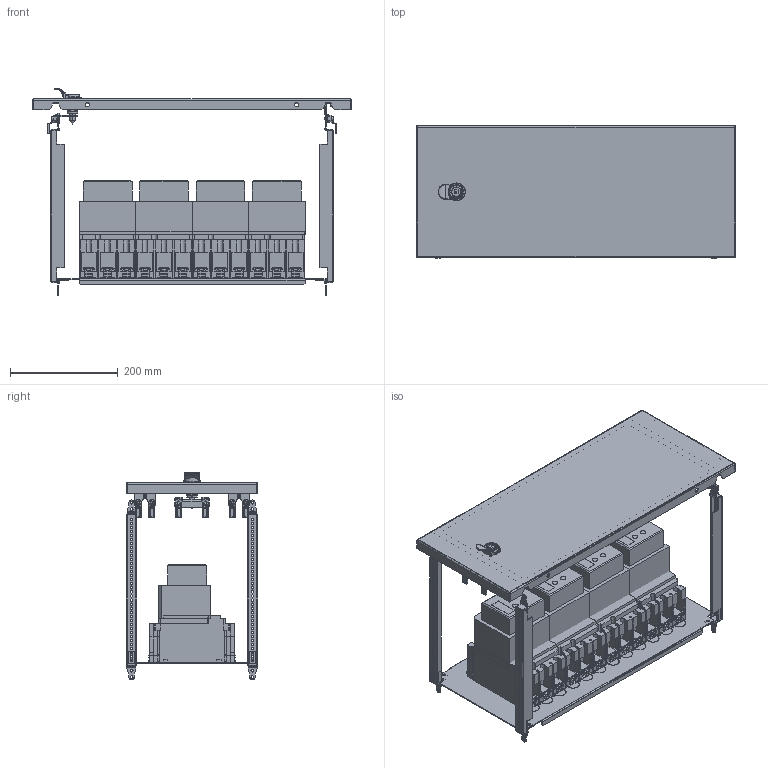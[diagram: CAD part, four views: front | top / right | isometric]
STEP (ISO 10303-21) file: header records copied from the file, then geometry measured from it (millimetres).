
FILE_DESCRIPTION(('CAx-IF Rec.Pracs.---Model Styling and Organization---1.2---2011-12-15','CAx-IF Rec.Pracs.---Geometric and Assembly Validation Properties---4.1---2014-06-16','CAx-IF Rec.Pracs.---PMI Polyline Presentation---2.0---2013-05-24'),'2;1');
FILE_NAME('R5PKEB7V62213 (F-MO).stp','2021-07-29T02:37:14+03:00',(''),(''),'STEP Interface 4.4 by CT CoreTechnologie','3D_Evolution4.4 by CT CoreTechnologie','');
FILE_SCHEMA(('AUTOMOTIVE_DESIGN { 1 0 10303 214 1 1 1 1 }'));
Length unit declared in the file: millimetre
Products named in the file (1): R5PKEB7V62213 (F-MO)
Bounding box: 594 x 245 x 386.9 mm (x, y, z)
Surface area: 1679189.2 mm2 (no closed solid volume)
Topology: 0 solids, 113 shells, 5100 faces, 14231 edges, 9403 vertices
Faces by surface type: plane 3423, cylinder 1205, bspline 472
Entity records: 173532 total; most frequent: CARTESIAN_POINT 41275, ORIENTED_EDGE 28384, DIRECTION 26045, EDGE_CURVE 14192, VECTOR 10971, LINE 10971, VERTEX_POINT 9475, AXIS2_PLACEMENT_3D 7537
